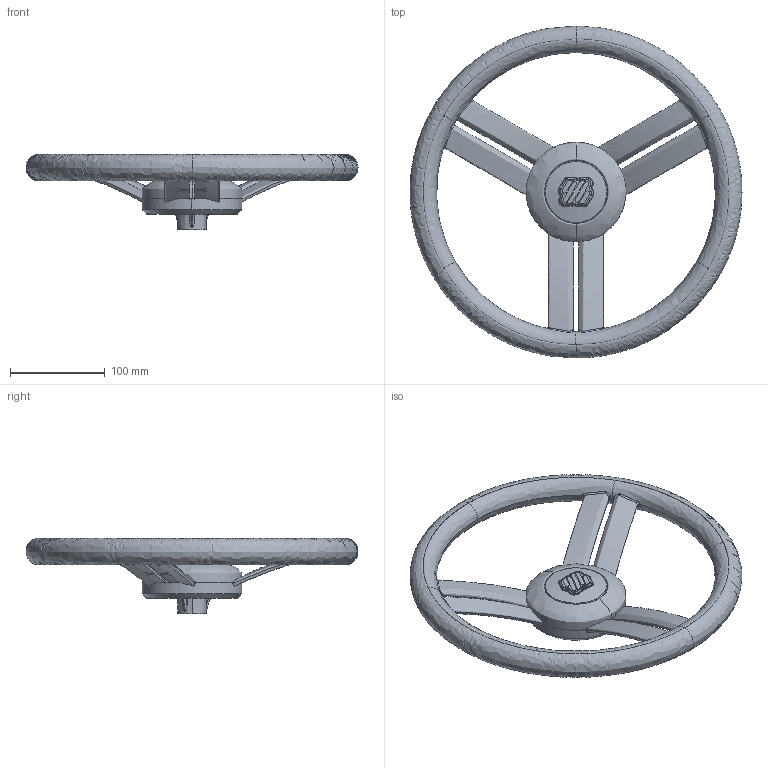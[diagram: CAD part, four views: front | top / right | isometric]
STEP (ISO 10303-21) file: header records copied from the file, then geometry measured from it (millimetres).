
FILE_DESCRIPTION(/* description */ (''),/* implementation_level */ '2;1');
FILE_NAME(/* name */ '3D per configuratore - Contarini',/* time_stamp */ '2016-07-21T09:53:09+02:00',/* author */ (''),/* organization */ (''),/* preprocessor_version */ 'ST-DEVELOPER v10',/* originating_system */ '',/* authorisation */ '');
FILE_SCHEMA (('CONFIG_CONTROL_DESIGN'));
Length unit declared in the file: millimetre
Products named in the file (1): 1
Bounding box: 350 x 349.95 x 79.46 mm (x, y, z)
Volume: 707998.1 mm3; surface area: 286655.3 mm2
Topology: 6 solids, 6 shells, 673 faces, 1767 edges, 1078 vertices
Faces by surface type: bspline 597, plane 76
Entity records: 31099 total; most frequent: CARTESIAN_POINT 21271, ORIENTED_EDGE 3514, EDGE_CURVE 1757, VERTEX_POINT 1078, B_SPLINE_CURVE_WITH_KNOTS 984, EDGE_LOOP 703, ADVANCED_FACE 673, FACE_OUTER_BOUND 673
